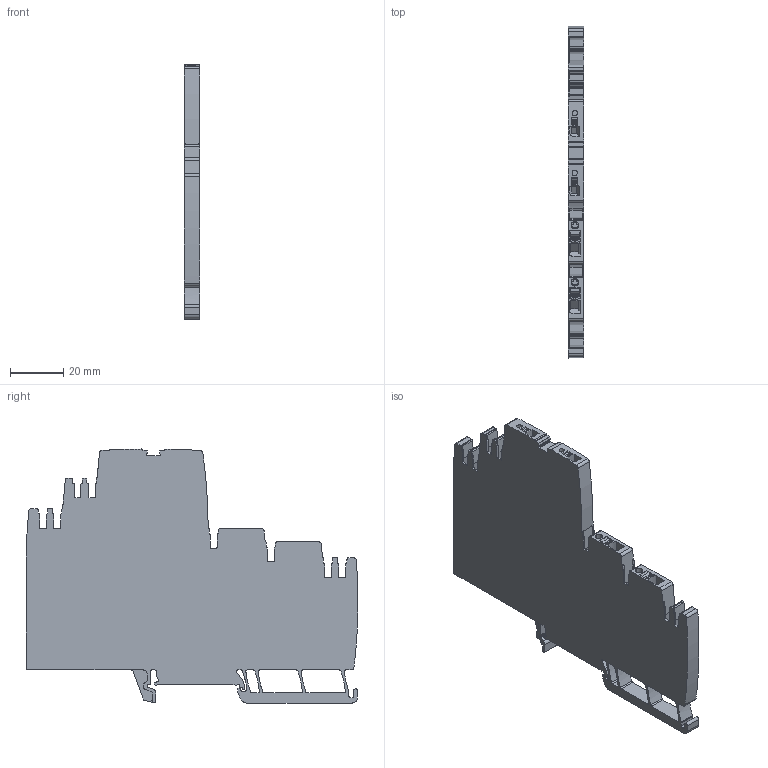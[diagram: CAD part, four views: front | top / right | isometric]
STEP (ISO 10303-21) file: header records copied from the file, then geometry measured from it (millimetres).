
FILE_DESCRIPTION(('CATIA V5R24 STEP','CAx-IF Rec.Pracs.--- Model Styling and Organization---1.2---2011-12-15'),'2;1');
FILE_NAME('\\SRVDE107\Germany\WMC\1_WMC_Input\Step_BU_PA\2122930000.stp','2017-09-05T06:14:05+00:00',('Weidmueller Interface'),('WI'),'CATIA Version 5-6 Release 2014 SP4','CATIA V5 STEP AP214','none');
FILE_SCHEMA(('AUTOMOTIVE_DESIGN { 1 0 10303 214 1 1 1 1 }'));
Length unit declared in the file: millimetre
Products named in the file (1): 2122930000
Bounding box: 6 x 125.07 x 95.73 mm (x, y, z)
Volume: 25605.1 mm3; surface area: 33389.8 mm2
Topology: 10 solids, 10 shells, 917 faces, 2818 edges, 1936 vertices
Faces by surface type: plane 523, cylinder 349, extrusion 45
Entity records: 33486 total; most frequent: CARTESIAN_POINT 8170, ORIENTED_EDGE 5636, DIRECTION 4102, EDGE_CURVE 2818, VERTEX_POINT 1936, VECTOR 1933, LINE 1888, AXIS2_PLACEMENT_3D 1400
